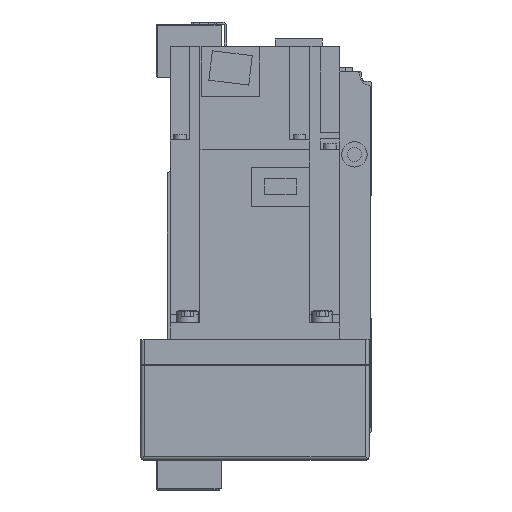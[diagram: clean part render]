
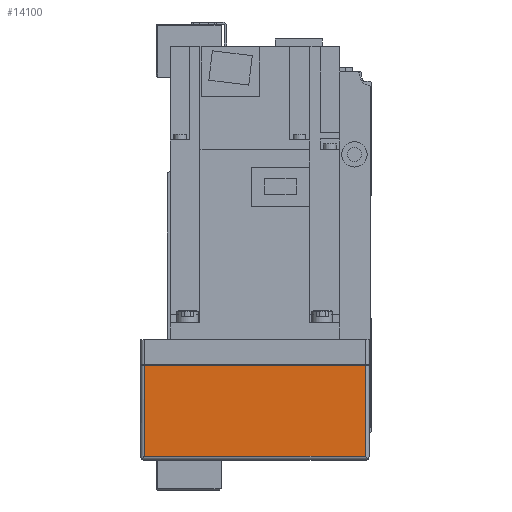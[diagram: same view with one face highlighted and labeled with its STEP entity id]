
A CAD part, left-side view. The second image highlights one B-rep face of the part: STEP entity #14100.
In plain terms, the highlighted planar face has unit normal (-1, 0, 0).
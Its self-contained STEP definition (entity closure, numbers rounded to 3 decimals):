
#2538=ORIENTED_EDGE('',*,*,#5844,.T.);
#2539=ORIENTED_EDGE('',*,*,#5772,.T.);
#2540=ORIENTED_EDGE('',*,*,#5845,.F.);
#2541=ORIENTED_EDGE('',*,*,#5784,.F.);
#5772=EDGE_CURVE('',#7574,#7577,#9054,.T.);
#5784=EDGE_CURVE('',#7584,#7586,#9059,.T.);
#5844=EDGE_CURVE('',#7584,#7574,#9101,.T.);
#5845=EDGE_CURVE('',#7586,#7577,#9102,.T.);
#7574=VERTEX_POINT('',#22079);
#7577=VERTEX_POINT('',#22085);
#7584=VERTEX_POINT('',#22108);
#7586=VERTEX_POINT('',#22111);
#9054=LINE('',#22086,#10367);
#9059=LINE('',#22110,#10372);
#9101=LINE('',#22234,#10414);
#9102=LINE('',#22235,#10415);
#10367=VECTOR('',#17623,1000.);
#10372=VECTOR('',#17650,1000.);
#10414=VECTOR('',#17770,1000.);
#10415=VECTOR('',#17771,1000.);
#11523=EDGE_LOOP('',(#2538,#2539,#2540,#2541));
#12598=FACE_BOUND('',#11523,.T.);
#13505=PLANE('',#15157);
#14100=ADVANCED_FACE('',(#12598),#13505,.T.);
#15157=AXIS2_PLACEMENT_3D('',#22233,#17768,#17769);
#17623=DIRECTION('',(0.,0.,1.));
#17650=DIRECTION('',(0.,0.,1.));
#17768=DIRECTION('',(-1.,0.,0.));
#17769=DIRECTION('',(0.,0.,1.));
#17770=DIRECTION('',(0.,-1.,0.));
#17771=DIRECTION('',(0.,-1.,0.));
#22079=CARTESIAN_POINT('',(-230.,-52.,-55.));
#22085=CARTESIAN_POINT('',(-230.,-52.,-12.));
#22086=CARTESIAN_POINT('',(-230.,-52.,-57.));
#22108=CARTESIAN_POINT('',(-230.,52.,-55.));
#22110=CARTESIAN_POINT('',(-230.,52.,-57.));
#22111=CARTESIAN_POINT('',(-230.,52.,-12.));
#22233=CARTESIAN_POINT('',(-230.,52.,-57.));
#22234=CARTESIAN_POINT('',(-230.,54.,-55.));
#22235=CARTESIAN_POINT('',(-230.,52.,-12.));
